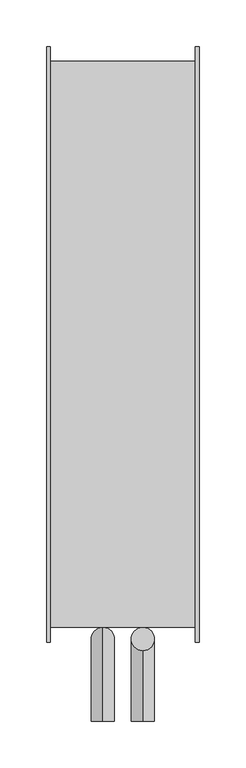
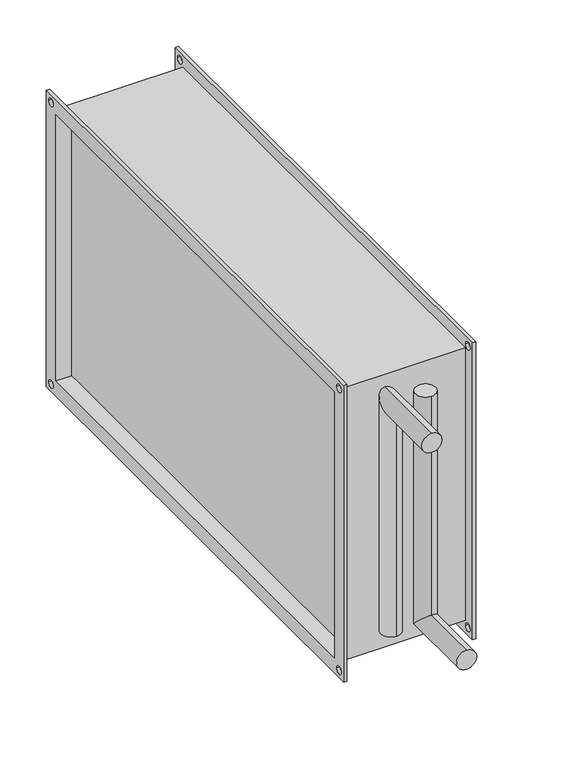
"""IFC4 building model written with IfcOpenShell, lengths in millimetres: proxy geometry, СВ_ВоздухонагревательВодяной_КанальныйПрямоугольный_200-1000_SPH-W : SPH-W-600x350/2."""

from ifc_helpers import new_model, si_unit, frame, origin, place, context, project, spatial, polyline, circle_curve, ellipse_curve, source, transform, mapped, element, save
from ifc_brep_helpers import plane_surface, cylinder_surface, revolved_surface, advanced_brep


def mechanical_equipment_3cc8e6d2(model_context):
    return source(origin(), model_context, "Body", "AdvancedBrep", [
        advanced_brep(
        [(21.5, -304.0, 150.0), (21.5, -329.0, 150.0), (21.5, -304.0, -162.5), (21.5, -329.0, -137.5), (21.5, -405.0, -162.5), (21.5, -405.0, -137.5)],
        [
            (0, 1, circle_curve(frame((21.5, -316.5, 150.0), z_axis=(0.0, 0.0, 1.0), x_axis=(0.0, -1.0, 0.0)), 12.5)),
            (1, 0, circle_curve(frame((21.5, -316.5, 150.0), z_axis=(0.0, 0.0, 1.0), x_axis=(0.0, -1.0, 0.0)), 12.5)),
            (0, 2),
            (2, 3, ellipse_curve(frame((21.5, -316.5, -150.0), z_axis=(0.0, 0.7071067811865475, 0.7071067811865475), x_axis=(0.0, -0.7071067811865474, 0.7071067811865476)), 17.6776695, 12.5)),
            (3, 1),
            (3, 2, ellipse_curve(frame((21.5, -316.5, -150.0), z_axis=(0.0, 0.7071067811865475, 0.7071067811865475), x_axis=(0.0, -0.7071067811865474, 0.7071067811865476)), 17.6776695, 12.5)),
            (4, 5, circle_curve(frame((21.5, -405.0, -150.0), z_axis=(0.0, -1.0, 0.0), x_axis=(0.0, 0.0, 1.0)), 12.5)),
            (5, 4, circle_curve(frame((21.5, -405.0, -150.0), z_axis=(0.0, -1.0, 0.0), x_axis=(0.0, 0.0, 1.0)), 12.5)),
            (2, 4),
            (5, 3),
        ],
        [
            plane_surface(frame((21.5, -316.5, 150.0), z_axis=(0.0, 0.0, 1.0), x_axis=(-1.0, 0.0, 0.0))),
            cylinder_surface(frame((21.5, -316.5, 150.0), z_axis=(0.0, 0.0, 1.0), x_axis=(0.0, -1.0, 0.0)), 12.5),
            plane_surface(frame((21.5, -405.0, -150.0), z_axis=(0.0, -1.0, 0.0), x_axis=(-1.0, 0.0, 0.0))),
            cylinder_surface(frame((21.5, -316.5, -150.0), z_axis=(0.0, 1.0, 0.0), x_axis=(0.0, 0.0, 1.0)), 12.5),
        ],
        [
            (0, [[1, 2]]),
            (1, [[-1, 3, 4, 5]]),
            (1, [[-2, -5, 6, -3]]),
            (2, [[7, 8]]),
            (3, [[-4, 9, -8, 10]]),
            (3, [[-6, -10, -7, -9]]),
        ],
    ),
        advanced_brep(
        [(-21.5, -304.0, -150.0), (-21.5, -329.0, -150.0), (-21.5, -304.0, 162.5), (-21.5, -329.0, 137.5), (-21.5, -405.0, 162.5), (-21.5, -405.0, 137.5)],
        [
            (0, 1, circle_curve(frame((-21.5, -316.5, -150.0), z_axis=(0.0, 0.0, -1.0), x_axis=(0.0, -1.0, 0.0)), 12.5)),
            (1, 0, circle_curve(frame((-21.5, -316.5, -150.0), z_axis=(0.0, 0.0, -1.0), x_axis=(0.0, -1.0, 0.0)), 12.5)),
            (0, 2),
            (2, 3, ellipse_curve(frame((-21.5, -316.5, 150.0), z_axis=(0.0, 0.7071067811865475, -0.7071067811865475), x_axis=(0.0, -0.7071067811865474, -0.7071067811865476)), 17.6776695, 12.5)),
            (3, 1),
            (3, 2, ellipse_curve(frame((-21.5, -316.5, 150.0), z_axis=(0.0, 0.7071067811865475, -0.7071067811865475), x_axis=(0.0, -0.7071067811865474, -0.7071067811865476)), 17.6776695, 12.5)),
            (4, 5, circle_curve(frame((-21.5, -405.0, 150.0), z_axis=(0.0, -1.0, 0.0), x_axis=(0.0, 0.0, -1.0)), 12.5)),
            (5, 4, circle_curve(frame((-21.5, -405.0, 150.0), z_axis=(0.0, -1.0, 0.0), x_axis=(0.0, 0.0, -1.0)), 12.5)),
            (2, 4),
            (5, 3),
        ],
        [
            plane_surface(frame((-21.5, -316.5, -150.0), z_axis=(0.0, 0.0, -1.0), x_axis=(1.0, 0.0, 0.0))),
            cylinder_surface(frame((-21.5, -316.5, -150.0), z_axis=(0.0, 0.0, -1.0), x_axis=(0.0, -1.0, 0.0)), 12.5),
            plane_surface(frame((-21.5, -405.0, 150.0), z_axis=(0.0, -1.0, 0.0), x_axis=(1.0, 0.0, 0.0))),
            cylinder_surface(frame((-21.5, -316.5, 150.0), z_axis=(0.0, 1.0, 0.0), x_axis=(0.0, 0.0, -1.0)), 12.5),
        ],
        [
            (0, [[1, 2]]),
            (1, [[-1, 3, 4, 5]]),
            (1, [[-2, -5, 6, -3]]),
            (2, [[7, 8]]),
            (3, [[-4, 9, -8, 10]]),
            (3, [[-6, -10, -7, -9]]),
        ],
    ),
        advanced_brep(
        [(-78.0, -304.0, 179.0), (-78.0, -304.0, -179.0), (78.0, -304.0, -179.0), (78.0, -304.0, 179.0), (-78.0, 304.0, -179.0), (78.0, 304.0, -179.0), (-78.0, 304.0, 179.0), (78.0, 304.0, 179.0), (62.0, 300.0, -175.0), (62.0, 300.0, 175.0), (62.0, -300.0, 175.0), (62.0, -300.0, -175.0), (-62.0, -300.0, 175.0), (-62.0, 300.0, 175.0), (-62.0, 300.0, -175.0), (-62.0, -300.0, -175.0), (-82.0, -320.0, 195.0), (-82.0, 320.0, 195.0), (-82.0, 320.0, -195.0), (-82.0, -320.0, -195.0), (-82.0, -300.0, 175.0), (-82.0, -300.0, -175.0), (-82.0, 300.0, -175.0), (-82.0, 300.0, 175.0), (-82.0, 305.0, 185.0), (-82.0, 315.0, 185.0), (-82.0, -315.0, 185.0), (-82.0, -305.0, 185.0), (-82.0, -315.0, -185.0), (-82.0, -305.0, -185.0), (-82.0, 305.0, -185.0), (-82.0, 315.0, -185.0), (-78.0, -320.0, 195.0), (-78.0, -320.0, -195.0), (-78.0, 320.0, -195.0), (-78.0, 320.0, 195.0), (-78.0, 315.0, 185.0), (-78.0, 305.0, 185.0), (-78.0, -305.0, 185.0), (-78.0, -315.0, 185.0), (-78.0, -305.0, -185.0), (-78.0, -315.0, -185.0), (-78.0, 315.0, -185.0), (-78.0, 305.0, -185.0), (78.0, 320.0, 195.0), (78.0, 320.0, -195.0), (78.0, -320.0, -195.0), (78.0, -320.0, 195.0), (78.0, 305.0, 185.0), (78.0, 315.0, 185.0), (78.0, -315.0, 185.0), (78.0, -305.0, 185.0), (78.0, -315.0, -185.0), (78.0, -305.0, -185.0), (78.0, 305.0, -185.0), (78.0, 315.0, -185.0), (82.0, 320.0, 195.0), (82.0, -320.0, 195.0), (82.0, -320.0, -195.0), (82.0, 320.0, -195.0), (82.0, 300.0, 175.0), (82.0, 300.0, -175.0), (82.0, -300.0, -175.0), (82.0, -300.0, 175.0), (82.0, 315.0, 185.0), (82.0, 305.0, 185.0), (82.0, -305.0, 185.0), (82.0, -315.0, 185.0), (82.0, -305.0, -185.0), (82.0, -315.0, -185.0), (82.0, 315.0, -185.0), (82.0, 305.0, -185.0)],
        [
            (0, 1),
            (1, 2),
            (2, 3),
            (3, 0),
            (1, 4),
            (4, 5),
            (5, 2),
            (4, 6),
            (6, 7),
            (7, 5),
            (6, 0),
            (3, 7),
            (8, 9),
            (9, 10),
            (10, 11),
            (11, 8),
            (12, 13),
            (13, 14),
            (14, 15),
            (15, 12),
            (16, 17),
            (17, 18),
            (18, 19),
            (19, 16),
            (20, 21),
            (21, 22),
            (22, 23),
            (23, 20),
            (24, 25, circle_curve(frame((-82.0, 310.0, 185.0), z_axis=(1.0, 0.0, 0.0), x_axis=(0.0, -1.0, 0.0)), 5.0)),
            (25, 24, circle_curve(frame((-82.0, 310.0, 185.0), z_axis=(1.0, 0.0, 0.0), x_axis=(0.0, -1.0, 0.0)), 5.0)),
            (26, 27, circle_curve(frame((-82.0, -310.0, 185.0), z_axis=(1.0, 0.0, 0.0), x_axis=(0.0, -1.0, 0.0)), 5.0)),
            (27, 26, circle_curve(frame((-82.0, -310.0, 185.0), z_axis=(1.0, 0.0, 0.0), x_axis=(0.0, -1.0, 0.0)), 5.0)),
            (28, 29, circle_curve(frame((-82.0, -310.0, -185.0), z_axis=(1.0, 0.0, 0.0), x_axis=(0.0, -1.0, 0.0)), 5.0)),
            (29, 28, circle_curve(frame((-82.0, -310.0, -185.0), z_axis=(1.0, 0.0, 0.0), x_axis=(0.0, -1.0, 0.0)), 5.0)),
            (30, 31, circle_curve(frame((-82.0, 310.0, -185.0), z_axis=(1.0, 0.0, 0.0), x_axis=(0.0, -1.0, 0.0)), 5.0)),
            (31, 30, circle_curve(frame((-82.0, 310.0, -185.0), z_axis=(1.0, 0.0, 0.0), x_axis=(0.0, -1.0, 0.0)), 5.0)),
            (32, 33),
            (33, 34),
            (34, 35),
            (35, 32),
            (36, 37, circle_curve(frame((-78.0, 310.0, 185.0), z_axis=(-1.0, 0.0, 0.0), x_axis=(0.0, -1.0, 0.0)), 5.0)),
            (37, 36, circle_curve(frame((-78.0, 310.0, 185.0), z_axis=(-1.0, 0.0, 0.0), x_axis=(0.0, -1.0, 0.0)), 5.0)),
            (38, 39, circle_curve(frame((-78.0, -310.0, 185.0), z_axis=(-1.0, 0.0, 0.0), x_axis=(0.0, -1.0, 0.0)), 5.0)),
            (39, 38, circle_curve(frame((-78.0, -310.0, 185.0), z_axis=(-1.0, 0.0, 0.0), x_axis=(0.0, -1.0, 0.0)), 5.0)),
            (40, 41, circle_curve(frame((-78.0, -310.0, -185.0), z_axis=(-1.0, 0.0, 0.0), x_axis=(0.0, -1.0, 0.0)), 5.0)),
            (41, 40, circle_curve(frame((-78.0, -310.0, -185.0), z_axis=(-1.0, 0.0, 0.0), x_axis=(0.0, -1.0, 0.0)), 5.0)),
            (42, 43, circle_curve(frame((-78.0, 310.0, -185.0), z_axis=(-1.0, 0.0, 0.0), x_axis=(0.0, -1.0, 0.0)), 5.0)),
            (43, 42, circle_curve(frame((-78.0, 310.0, -185.0), z_axis=(-1.0, 0.0, 0.0), x_axis=(0.0, -1.0, 0.0)), 5.0)),
            (19, 33),
            (32, 16),
            (18, 34),
            (17, 35),
            (44, 45),
            (45, 46),
            (46, 47),
            (47, 44),
            (48, 49, circle_curve(frame((78.0, 310.0, 185.0), z_axis=(1.0, 0.0, 0.0), x_axis=(0.0, -1.0, 0.0)), 5.0)),
            (49, 48, circle_curve(frame((78.0, 310.0, 185.0), z_axis=(1.0, 0.0, 0.0), x_axis=(0.0, -1.0, 0.0)), 5.0)),
            (50, 51, circle_curve(frame((78.0, -310.0, 185.0), z_axis=(1.0, 0.0, 0.0), x_axis=(0.0, -1.0, 0.0)), 5.0)),
            (51, 50, circle_curve(frame((78.0, -310.0, 185.0), z_axis=(1.0, 0.0, 0.0), x_axis=(0.0, -1.0, 0.0)), 5.0)),
            (52, 53, circle_curve(frame((78.0, -310.0, -185.0), z_axis=(1.0, 0.0, 0.0), x_axis=(0.0, -1.0, 0.0)), 5.0)),
            (53, 52, circle_curve(frame((78.0, -310.0, -185.0), z_axis=(1.0, 0.0, 0.0), x_axis=(0.0, -1.0, 0.0)), 5.0)),
            (54, 55, circle_curve(frame((78.0, 310.0, -185.0), z_axis=(1.0, 0.0, 0.0), x_axis=(0.0, -1.0, 0.0)), 5.0)),
            (55, 54, circle_curve(frame((78.0, 310.0, -185.0), z_axis=(1.0, 0.0, 0.0), x_axis=(0.0, -1.0, 0.0)), 5.0)),
            (56, 57),
            (57, 58),
            (58, 59),
            (59, 56),
            (60, 61),
            (61, 62),
            (62, 63),
            (63, 60),
            (64, 65, circle_curve(frame((82.0, 310.0, 185.0), z_axis=(-1.0, 0.0, 0.0), x_axis=(0.0, -1.0, 0.0)), 5.0)),
            (65, 64, circle_curve(frame((82.0, 310.0, 185.0), z_axis=(-1.0, 0.0, 0.0), x_axis=(0.0, -1.0, 0.0)), 5.0)),
            (66, 67, circle_curve(frame((82.0, -310.0, 185.0), z_axis=(-1.0, 0.0, 0.0), x_axis=(0.0, -1.0, 0.0)), 5.0)),
            (67, 66, circle_curve(frame((82.0, -310.0, 185.0), z_axis=(-1.0, 0.0, 0.0), x_axis=(0.0, -1.0, 0.0)), 5.0)),
            (68, 69, circle_curve(frame((82.0, -310.0, -185.0), z_axis=(-1.0, 0.0, 0.0), x_axis=(0.0, -1.0, 0.0)), 5.0)),
            (69, 68, circle_curve(frame((82.0, -310.0, -185.0), z_axis=(-1.0, 0.0, 0.0), x_axis=(0.0, -1.0, 0.0)), 5.0)),
            (70, 71, circle_curve(frame((82.0, 310.0, -185.0), z_axis=(-1.0, 0.0, 0.0), x_axis=(0.0, -1.0, 0.0)), 5.0)),
            (71, 70, circle_curve(frame((82.0, 310.0, -185.0), z_axis=(-1.0, 0.0, 0.0), x_axis=(0.0, -1.0, 0.0)), 5.0)),
            (47, 57),
            (56, 44),
            (46, 58),
            (45, 59),
            (23, 13),
            (12, 20),
            (22, 14),
            (21, 15),
            (60, 9),
            (8, 61),
            (11, 62),
            (10, 63),
            (36, 25),
            (24, 37),
            (64, 49),
            (48, 65),
            (38, 27),
            (26, 39),
            (66, 51),
            (50, 67),
            (40, 29),
            (28, 41),
            (68, 53),
            (52, 69),
            (42, 31),
            (30, 43),
            (70, 55),
            (54, 71),
        ],
        [
            plane_surface(frame((-62.0, -304.0, 179.0), z_axis=(0.0, -1.0, 0.0), x_axis=(-1.0, 0.0, 0.0))),
            plane_surface(frame((-62.0, -304.0, -179.0), z_axis=(0.0, 0.0, -1.0), x_axis=(-1.0, 0.0, 0.0))),
            plane_surface(frame((-62.0, 304.0, -179.0), z_axis=(0.0, 1.0, 0.0), x_axis=(-1.0, 0.0, 0.0))),
            plane_surface(frame((-62.0, 304.0, 179.0), z_axis=(0.0, 0.0, 1.0), x_axis=(-1.0, 0.0, 0.0))),
            plane_surface(frame((62.0, -304.0, 179.0), z_axis=(1.0, 0.0, 0.0), x_axis=(0.0, 0.0, -1.0))),
            plane_surface(frame((-62.0, -304.0, 179.0), z_axis=(-1.0, 0.0, 0.0), x_axis=(0.0, 0.0, 1.0))),
            plane_surface(frame((-82.0, -320.0, 195.0), z_axis=(-1.0, 0.0, 0.0), x_axis=(0.0, 0.0, 1.0))),
            plane_surface(frame((-78.0, -320.0, 195.0), z_axis=(1.0, 0.0, 0.0), x_axis=(0.0, 0.0, -1.0))),
            plane_surface(frame((-78.0, -320.0, 195.0), z_axis=(0.0, -1.0, 0.0), x_axis=(-1.0, 0.0, 0.0))),
            plane_surface(frame((-78.0, -320.0, -195.0), z_axis=(0.0, 0.0, -1.0), x_axis=(-1.0, 0.0, 0.0))),
            plane_surface(frame((-78.0, 320.0, -195.0), z_axis=(0.0, 1.0, 0.0), x_axis=(-1.0, 0.0, 0.0))),
            plane_surface(frame((-78.0, 320.0, 195.0), z_axis=(0.0, 0.0, 1.0), x_axis=(-1.0, 0.0, 0.0))),
            plane_surface(frame((78.0, 300.0, -175.0), z_axis=(-1.0, 0.0, 0.0), x_axis=(0.0, 0.0, 1.0))),
            plane_surface(frame((82.0, 300.0, -175.0), z_axis=(1.0, 0.0, 0.0), x_axis=(0.0, 0.0, -1.0))),
            plane_surface(frame((82.0, 320.0, 195.0), z_axis=(0.0, 0.0, 1.0), x_axis=(-1.0, 0.0, 0.0))),
            plane_surface(frame((82.0, -320.0, 195.0), z_axis=(0.0, -1.0, 0.0), x_axis=(-1.0, 0.0, 0.0))),
            plane_surface(frame((82.0, -320.0, -195.0), z_axis=(0.0, 0.0, -1.0), x_axis=(-1.0, 0.0, 0.0))),
            plane_surface(frame((82.0, 320.0, -195.0), z_axis=(0.0, 1.0, 0.0), x_axis=(-1.0, 0.0, 0.0))),
            plane_surface(frame((-78.0, -300.0, 175.0), z_axis=(0.0, 0.0, -1.0), x_axis=(-1.0, 0.0, 0.0))),
            plane_surface(frame((-78.0, 300.0, 175.0), z_axis=(0.0, -1.0, 0.0), x_axis=(-1.0, 0.0, 0.0))),
            plane_surface(frame((-78.0, 300.0, -175.0), z_axis=(0.0, 0.0, 1.0), x_axis=(-1.0, 0.0, 0.0))),
            plane_surface(frame((-78.0, -300.0, -175.0), z_axis=(0.0, 1.0, 0.0), x_axis=(-1.0, 0.0, 0.0))),
            plane_surface(frame((82.0, 300.0, 175.0), z_axis=(0.0, -1.0, 0.0), x_axis=(-1.0, 0.0, 0.0))),
            plane_surface(frame((82.0, 300.0, -175.0), z_axis=(0.0, 0.0, 1.0), x_axis=(-1.0, 0.0, 0.0))),
            plane_surface(frame((82.0, -300.0, -175.0), z_axis=(0.0, 1.0, 0.0), x_axis=(-1.0, 0.0, 0.0))),
            plane_surface(frame((82.0, -300.0, 175.0), z_axis=(0.0, 0.0, -1.0), x_axis=(-1.0, 0.0, 0.0))),
            revolved_surface(polyline([(-82.0, 305.0, 185.0), (-78.0, 305.0, 185.0)]), (82.0, 310.0, 185.0), (-1.0, 0.0, 0.0)),
            revolved_surface(polyline([(78.0, 305.0, 185.0), (82.0, 305.0, 185.0)]), (82.0, 310.0, 185.0), (-1.0, 0.0, 0.0)),
            revolved_surface(polyline([(-82.0, -315.0, 185.0), (-78.0, -315.0, 185.0)]), (21.5, -310.0, 185.0), (-1.0, 0.0, 0.0)),
            revolved_surface(polyline([(78.0, -315.0, 185.0), (82.0, -315.0, 185.0)]), (21.5, -310.0, 185.0), (-1.0, 0.0, 0.0)),
            revolved_surface(polyline([(-82.0, -315.0, -185.0), (-78.0, -315.0, -185.0)]), (21.5, -310.0, -185.0), (-1.0, 0.0, 0.0)),
            revolved_surface(polyline([(78.0, -315.0, -185.0), (82.0, -315.0, -185.0)]), (21.5, -310.0, -185.0), (-1.0, 0.0, 0.0)),
            revolved_surface(polyline([(-82.0, 305.0, -185.0), (-78.0, 305.0, -185.0)]), (21.5, 310.0, -185.0), (-1.0, 0.0, 0.0)),
            revolved_surface(polyline([(78.0, 305.0, -185.0), (82.0, 305.0, -185.0)]), (21.5, 310.0, -185.0), (-1.0, 0.0, 0.0)),
        ],
        [
            (0, [[1, 2, 3, 4]]),
            (1, [[-2, 5, 6, 7]]),
            (2, [[-6, 8, 9, 10]]),
            (3, [[-9, 11, -4, 12]]),
            (4, [[13, 14, 15, 16]]),
            (5, [[17, 18, 19, 20]]),
            (6, [[21, 22, 23, 24], [25, 26, 27, 28], [29, 30], [31, 32], [33, 34], [35, 36]]),
            (7, [[37, 38, 39, 40], [-1, -11, -8, -5], [41, 42], [43, 44], [45, 46], [47, 48]]),
            (8, [[-24, 49, -37, 50]]),
            (9, [[-23, 51, -38, -49]]),
            (10, [[-22, 52, -39, -51]]),
            (11, [[-21, -50, -40, -52]]),
            (12, [[53, 54, 55, 56], [-3, -7, -10, -12], [57, 58], [59, 60], [61, 62], [63, 64]]),
            (13, [[65, 66, 67, 68], [69, 70, 71, 72], [73, 74], [75, 76], [77, 78], [79, 80]]),
            (14, [[-56, 81, -65, 82]]),
            (15, [[-55, 83, -66, -81]]),
            (16, [[-54, 84, -67, -83]]),
            (17, [[-53, -82, -68, -84]]),
            (18, [[-28, 85, -17, 86]]),
            (19, [[-27, 87, -18, -85]]),
            (20, [[-26, 88, -19, -87]]),
            (21, [[-25, -86, -20, -88]]),
            (22, [[-69, 89, -13, 90]]),
            (23, [[-70, -90, -16, 91]]),
            (24, [[-71, -91, -15, 92]]),
            (25, [[-89, -72, -92, -14]]),
            (26, [[93, -29, 94, -41]]),
            (27, [[95, -57, 96, -73]]),
            (26, [[-93, -42, -94, -30]]),
            (27, [[-95, -74, -96, -58]]),
            (28, [[97, -31, 98, -43]]),
            (29, [[99, -59, 100, -75]]),
            (28, [[-97, -44, -98, -32]]),
            (29, [[-99, -76, -100, -60]]),
            (30, [[101, -33, 102, -45]]),
            (31, [[103, -61, 104, -77]]),
            (30, [[-101, -46, -102, -34]]),
            (31, [[-103, -78, -104, -62]]),
            (32, [[105, -35, 106, -47]]),
            (33, [[107, -63, 108, -79]]),
            (32, [[-105, -48, -106, -36]]),
            (33, [[-107, -80, -108, -64]]),
        ],
    ),
    ])


if __name__ == "__main__":
    model = new_model("IFC4")
    model_context = context("Model", 3, world=origin())
    ifc_project = project(units=[si_unit("LENGTHUNIT", "METRE", prefix="MILLI")], contexts=[model_context])
    site = spatial("IfcSite", under=ifc_project)
    building = spatial("IfcBuilding", under=site)
    placement = place(None, origin())
    mechanical_equipment_shape = mechanical_equipment_3cc8e6d2(model_context)
    element("IfcBuildingElementProxy", 1, Name="СВ_ВоздухонагревательВодяной_КанальныйПрямоугольный_200-1000_SPH-W : SPH-W-600x350/2", ObjectType="СВ_ВоздухонагревательВодяной_КанальныйПрямоугольный_200-1000_SPH-W : SPH-W-600x350/2", at=placement, inside=building, context=model_context, shape_type="MappedRepresentation", body=[
        mapped(mechanical_equipment_shape, transform((0.0, 0.0, 0.0), x_axis=(1.0, 0.0, 0.0), y_axis=(0.0, 1.0, 0.0), z_axis=(0.0, 0.0, 1.0))),
    ])
    save(model, "model.ifc")
